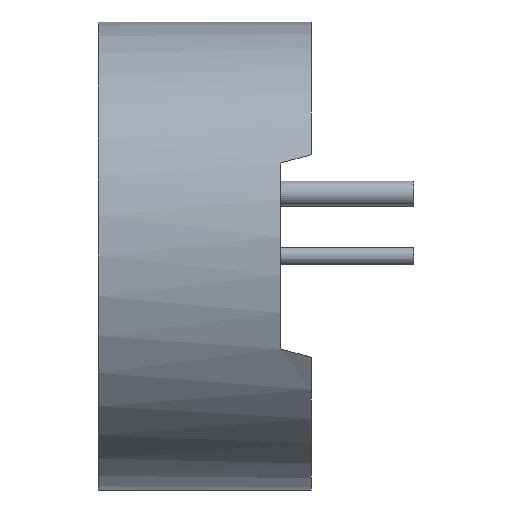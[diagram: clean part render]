
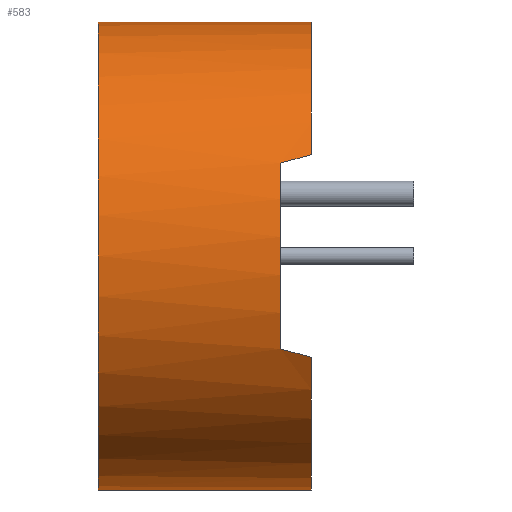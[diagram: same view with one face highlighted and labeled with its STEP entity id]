
A CAD part, left-side view. The second image highlights one B-rep face of the part: STEP entity #583.
In plain terms, the highlighted cylindrical face has radius 9.588 mm (diameter 19.177 mm), a partial arc.
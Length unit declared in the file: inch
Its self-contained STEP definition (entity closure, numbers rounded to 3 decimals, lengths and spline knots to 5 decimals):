
#10 = AXIS2_PLACEMENT_3D ( 'NONE', #1165, #1167, #1061 ) ;
#16 = LINE ( 'NONE', #821, #1161 ) ;
#51 = EDGE_CURVE ( 'NONE', #569, #1062, #1046, .T. ) ;
#57 = CIRCLE ( 'NONE', #630, 0.3775 ) ;
#67 = AXIS2_PLACEMENT_3D ( 'NONE', #563, #1317, #756 ) ;
#94 = VERTEX_POINT ( 'NONE', #189 ) ;
#115 = VECTOR ( 'NONE', #374, 39.37008 ) ;
#171 = ORIENTED_EDGE ( 'NONE', *, *, #51, .T. ) ;
#183 = EDGE_CURVE ( 'NONE', #330, #94, #57, .T. ) ;
#189 = CARTESIAN_POINT ( 'NONE',  ( 0., 0.344, 0.3775 ) ) ;
#221 = CARTESIAN_POINT ( 'NONE',  ( 0., 0., 0.3775 ) ) ;
#227 =( BOUNDED_CURVE ( )  B_SPLINE_CURVE ( 3, ( #469, #541, #983, #747 ),
 .UNSPECIFIED., .F., .T. ) 
 B_SPLINE_CURVE_WITH_KNOTS ( ( 4, 4 ),
 ( 5.12102, 5.16004 ),
 .UNSPECIFIED. ) 
 CURVE ( )  GEOMETRIC_REPRESENTATION_ITEM ( )  RATIONAL_B_SPLINE_CURVE ( ( 1., 1., 1., 1. ) ) 
 REPRESENTATION_ITEM ( '' )  );
#255 = CARTESIAN_POINT ( 'NONE',  ( -0.34642, 0.05, 0.15 ) ) ;
#271 = ORIENTED_EDGE ( 'NONE', *, *, #588, .T. ) ;
#288 = EDGE_LOOP ( 'NONE', ( #1164, #1048, #891, #271, #779, #1055, #546, #171 ) ) ;
#290 = EDGE_CURVE ( 'NONE', #1249, #569, #227, .T. ) ;
#305 = VERTEX_POINT ( 'NONE', #1041 ) ;
#330 = VERTEX_POINT ( 'NONE', #961 ) ;
#374 = DIRECTION ( 'NONE',  ( 0., -1., 0. ) ) ;
#375 = VERTEX_POINT ( 'NONE', #519 ) ;
#390 = CARTESIAN_POINT ( 'NONE',  ( 0., 0.344, -0.3775 ) ) ;
#397 = FACE_OUTER_BOUND ( 'NONE', #288, .T. ) ;
#422 = EDGE_CURVE ( 'NONE', #375, #305, #464, .T. ) ;
#428 = DIRECTION ( 'NONE',  ( 0., -1., 0. ) ) ;
#441 = EDGE_CURVE ( 'NONE', #305, #1249, #991, .T. ) ;
#464 =( BOUNDED_CURVE ( )  B_SPLINE_CURVE ( 3, ( #589, #725, #746, #735 ),
 .UNSPECIFIED., .F., .T. ) 
 B_SPLINE_CURVE_WITH_KNOTS ( ( 4, 4 ),
 ( 1.12315, 1.16217 ),
 .UNSPECIFIED. ) 
 CURVE ( )  GEOMETRIC_REPRESENTATION_ITEM ( )  RATIONAL_B_SPLINE_CURVE ( ( 1., 1., 1., 1. ) ) 
 REPRESENTATION_ITEM ( '' )  );
#469 = CARTESIAN_POINT ( 'NONE',  ( -0.34642, 0.05, 0.15 ) ) ;
#519 = CARTESIAN_POINT ( 'NONE',  ( -0.3403, 0., -0.1634 ) ) ;
#541 = CARTESIAN_POINT ( 'NONE',  ( -0.34447, 0.03319, 0.15451 ) ) ;
#546 = ORIENTED_EDGE ( 'NONE', *, *, #290, .T. ) ;
#563 = CARTESIAN_POINT ( 'NONE',  ( 0., 0., 0. ) ) ;
#569 = VERTEX_POINT ( 'NONE', #744 ) ;
#583 = ADVANCED_FACE ( 'NONE', ( #397 ), #1007, .T. ) ;
#588 = EDGE_CURVE ( 'NONE', #1103, #375, #1187, .T. ) ;
#589 = CARTESIAN_POINT ( 'NONE',  ( -0.3403, 0., -0.1634 ) ) ;
#595 = DIRECTION ( 'NONE',  ( 0., 1., 0. ) ) ;
#611 = CARTESIAN_POINT ( 'NONE',  ( 0., 0.05, 0. ) ) ;
#630 = AXIS2_PLACEMENT_3D ( 'NONE', #1358, #1355, #1243 ) ;
#690 = DIRECTION ( 'NONE',  ( 0., 0., 1. ) ) ;
#725 = CARTESIAN_POINT ( 'NONE',  ( -0.34243, 0.01652, -0.15897 ) ) ;
#735 = CARTESIAN_POINT ( 'NONE',  ( -0.34642, 0.05, -0.15 ) ) ;
#744 = CARTESIAN_POINT ( 'NONE',  ( -0.3403, 0., 0.1634 ) ) ;
#746 = CARTESIAN_POINT ( 'NONE',  ( -0.34447, 0.03319, -0.15451 ) ) ;
#747 = CARTESIAN_POINT ( 'NONE',  ( -0.3403, 0., 0.1634 ) ) ;
#750 = AXIS2_PLACEMENT_3D ( 'NONE', #611, #595, #690 ) ;
#756 = DIRECTION ( 'NONE',  ( 0., 0., 1. ) ) ;
#779 = ORIENTED_EDGE ( 'NONE', *, *, #422, .T. ) ;
#821 = CARTESIAN_POINT ( 'NONE',  ( 0., 0.344, 0.3775 ) ) ;
#891 = ORIENTED_EDGE ( 'NONE', *, *, #926, .T. ) ;
#926 = EDGE_CURVE ( 'NONE', #330, #1103, #1327, .T. ) ;
#961 = CARTESIAN_POINT ( 'NONE',  ( 0., 0.344, -0.3775 ) ) ;
#972 = DIRECTION ( 'NONE',  ( 0., 0., 1. ) ) ;
#983 = CARTESIAN_POINT ( 'NONE',  ( -0.34243, 0.01652, 0.15897 ) ) ;
#991 = CIRCLE ( 'NONE', #750, 0.3775 ) ;
#1007 = CYLINDRICAL_SURFACE ( 'NONE', #10, 0.3775 ) ;
#1041 = CARTESIAN_POINT ( 'NONE',  ( -0.34642, 0.05, -0.15 ) ) ;
#1046 = CIRCLE ( 'NONE', #67, 0.3775 ) ;
#1048 = ORIENTED_EDGE ( 'NONE', *, *, #183, .F. ) ;
#1055 = ORIENTED_EDGE ( 'NONE', *, *, #441, .T. ) ;
#1061 = DIRECTION ( 'NONE',  ( 0., 0., -1. ) ) ;
#1062 = VERTEX_POINT ( 'NONE', #221 ) ;
#1083 = CARTESIAN_POINT ( 'NONE',  ( 0., 0., -0.3775 ) ) ;
#1103 = VERTEX_POINT ( 'NONE', #1083 ) ;
#1136 = EDGE_CURVE ( 'NONE', #94, #1062, #16, .T. ) ;
#1161 = VECTOR ( 'NONE', #428, 39.37008 ) ;
#1164 = ORIENTED_EDGE ( 'NONE', *, *, #1136, .F. ) ;
#1165 = CARTESIAN_POINT ( 'NONE',  ( 0., 0.344, 0. ) ) ;
#1167 = DIRECTION ( 'NONE',  ( 0., -1., 0. ) ) ;
#1187 = CIRCLE ( 'NONE', #1218, 0.3775 ) ;
#1218 = AXIS2_PLACEMENT_3D ( 'NONE', #1380, #1258, #972 ) ;
#1243 = DIRECTION ( 'NONE',  ( 0., 0., 1. ) ) ;
#1249 = VERTEX_POINT ( 'NONE', #255 ) ;
#1258 = DIRECTION ( 'NONE',  ( 0., 1., 0. ) ) ;
#1317 = DIRECTION ( 'NONE',  ( 0., 1., 0. ) ) ;
#1327 = LINE ( 'NONE', #390, #115 ) ;
#1355 = DIRECTION ( 'NONE',  ( 0., 1., 0. ) ) ;
#1358 = CARTESIAN_POINT ( 'NONE',  ( 0., 0.344, 0. ) ) ;
#1380 = CARTESIAN_POINT ( 'NONE',  ( 0., 0., 0. ) ) ;
